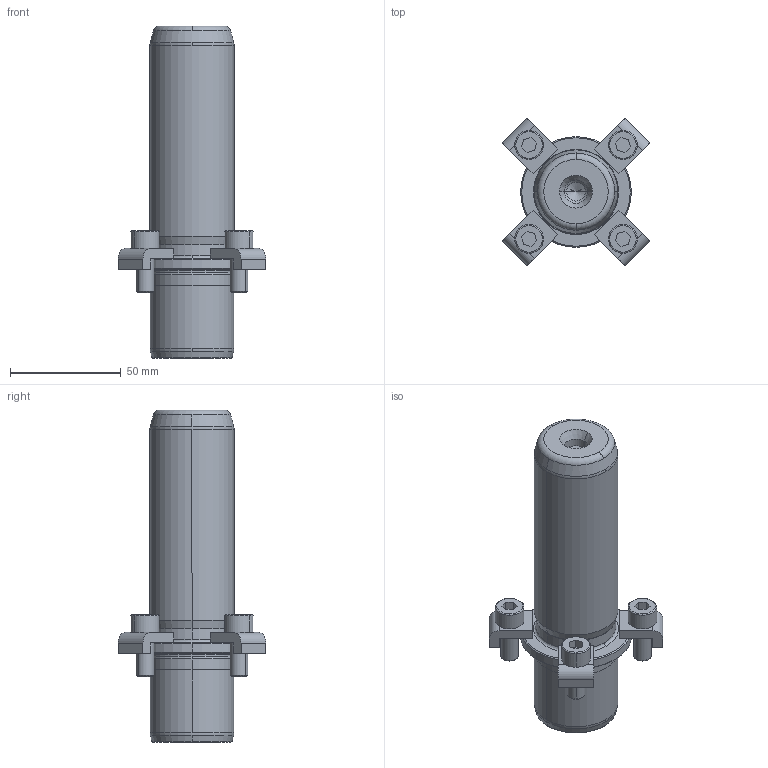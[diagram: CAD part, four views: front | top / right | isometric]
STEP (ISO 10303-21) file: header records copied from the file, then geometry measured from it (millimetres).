
FILE_DESCRIPTION((''),'2;1');
FILE_NAME('P21_038_110.stp','2008-12-23T10:52:07',(''),(''),'Mechanical Desktop 2009','Mechanical Desktop 2009',', , ');
FILE_SCHEMA(('CONFIG_CONTROL_DESIGN'));
Length unit declared in the file: millimetre
Products named in the file (2): Product; blmdl1
Assembly tree (1 placements, depth 2):
  Product
    blmdl1
Bounding box: 66.82 x 66.82 x 150 mm (x, y, z)
Volume: 181047.7 mm3; surface area: 32243.7 mm2
Topology: 9 solids, 9 shells, 195 faces, 477 edges, 309 vertices
Faces by surface type: plane 77, cylinder 52, cone 34, torus 16, bspline 16
Entity records: 6547 total; most frequent: CARTESIAN_POINT 1683, DIRECTION 1078, ORIENTED_EDGE 946, EDGE_CURVE 473, AXIS2_PLACEMENT_3D 424, VERTEX_POINT 309, CIRCLE 243, VECTOR 230
